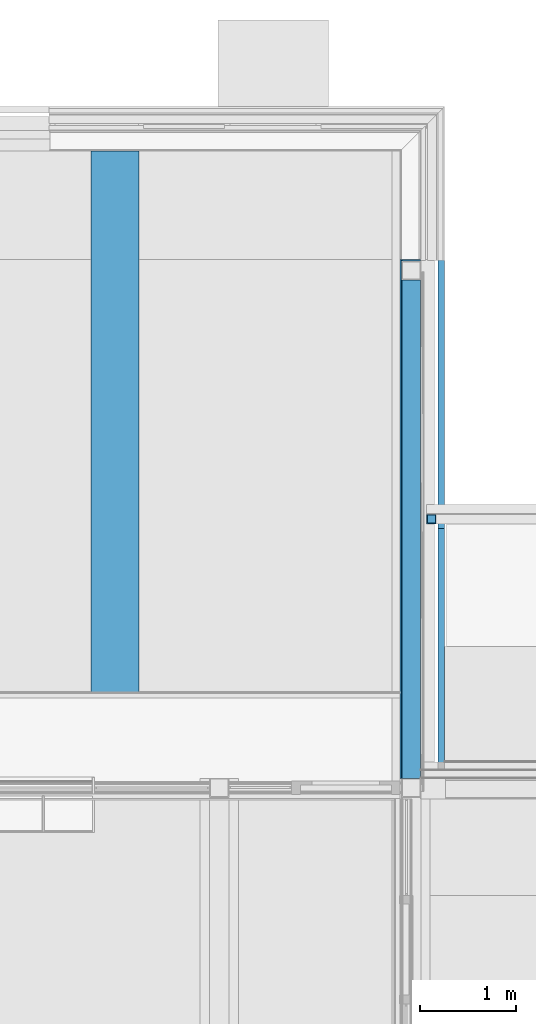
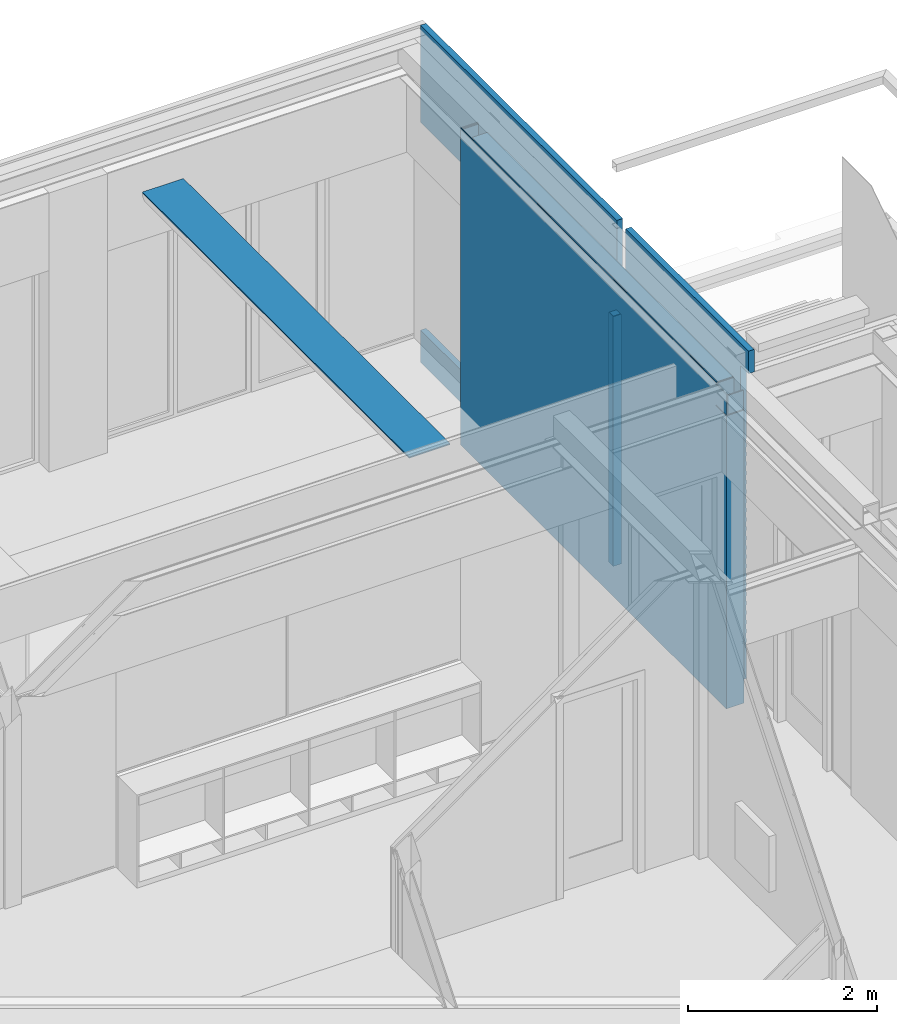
# One storey, part 97 of 165: 5 building element parts, 1 opening, 3 elements without a shape of their own.
"""IFC2X3 building model written with IfcOpenShell, lengths in millimetres."""

from ifc_helpers import new_model, entity, si_unit, converted_unit, derived_unit, money_unit, direction, frame, origin_with_axes, place, context, subcontext, project, spatial, faceted_brep, material, type_object, element, aggregate, save


model = new_model("IFC2X3")

# Units and contexts
model_context = context("Model", 3, precision=0.01, world=origin_with_axes(), true_north=direction((0.0, 1.0)))
body_context = subcontext(model_context, "Body", "Model", "MODEL_VIEW")
ifc_project = project(units=[si_unit("LENGTHUNIT", "METRE", prefix="MILLI"), si_unit("AREAUNIT", "SQUARE_METRE"), si_unit("VOLUMEUNIT", "CUBIC_METRE"), converted_unit("PLANEANGLEUNIT", "DEGREE", entity("IfcPlaneAngleMeasure", 0.0174532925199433), si_unit("PLANEANGLEUNIT", "RADIAN"), dimensions=[0, 0, 0, 0, 0, 0, 0]), money_unit("EUR"), converted_unit("TIMEUNIT", "Year", entity("IfcTimeMeasure", 31556926.0), si_unit("TIMEUNIT", "SECOND"), dimensions=[0, 0, 1, 0, 0, 0, 0]), si_unit("MASSUNIT", "GRAM", prefix="KILO"), si_unit("THERMODYNAMICTEMPERATUREUNIT", "DEGREE_CELSIUS"), si_unit("LUMINOUSINTENSITYUNIT", "LUMEN"), si_unit("ENERGYUNIT", "JOULE", prefix="MEGA"), derived_unit("THERMALCONDUCTANCEUNIT", [(si_unit("POWERUNIT", "WATT"), 1), (si_unit("LENGTHUNIT", "METRE"), -1), (si_unit("THERMODYNAMICTEMPERATUREUNIT", "KELVIN"), -1)]), derived_unit("SPECIFICHEATCAPACITYUNIT", [(si_unit("ENERGYUNIT", "JOULE"), 1), (si_unit("MASSUNIT", "GRAM", prefix="KILO"), -1), (si_unit("THERMODYNAMICTEMPERATUREUNIT", "KELVIN"), -1)]), derived_unit("MASSDENSITYUNIT", [(si_unit("MASSUNIT", "GRAM", prefix="KILO"), 1), (si_unit("VOLUMEUNIT", "CUBIC_METRE"), -1)])], contexts=[model_context])

# Site, building, storey
site_placement = place(None, origin_with_axes())
site = spatial("IfcSite", under=ifc_project, at=site_placement, Name="Site", CompositionType="ELEMENT")
building_placement = place(site_placement, origin_with_axes())
building = spatial("IfcBuilding", under=site, at=building_placement, Name="Naam gebouw", CompositionType="ELEMENT")
storey_placement = place(building_placement, origin_with_axes())
storey = spatial("IfcBuildingStorey", under=building, at=storey_placement, Name="Begane grond", CompositionType="ELEMENT", Elevation=0.0)

# Wall, opening, building element parts
wall_type = type_object("IfcWallType", Name="21 Buitenwand spouwmuur 464", PredefinedType="NOTDEFINED")
wall_placement = place(storey_placement, frame((26600.0, 29175.0, -485.0), z_axis=(0.0, 0.0, 1.0), x_axis=(0.0, -1.0, 0.0)))
wall = element("IfcWall", 1, at=wall_placement, inside=storey, type_object=wall_type, Name="21_Wand-x")
opening_placement = place(wall_placement, frame((671.999999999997, 0.0, 475.0), z_axis=(0.0, 0.0, 1.0), x_axis=(1.0, 0.0, 0.0)))
element("IfcOpeningElement", 2, at=opening_placement, cuts=wall, Name="_Merk AB1", context=body_context, shape_type="Brep", body=[
    faceted_brep([(672.0000000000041, 0.0, 2620.0), (-672.0000000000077, 0.0, 2620.0), (-672.0000000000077, 0.0, 3620.0), (672.0000000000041, 0.0, 3620.0), (672.0000000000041, 72.00000000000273, 2620.0), (-744.0000000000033, 72.00000000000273, 2620.0), (-922.0000000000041, 250.0000000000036, 2620.0), (-922.0000000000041, 250.0000000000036, -60.00000000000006), (-744.0000000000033, 72.00000000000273, -60.00000000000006), (-672.0000000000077, 0.0, -60.00000000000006), (-672.0000000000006, 0.0, -1060.0), (-457.0000000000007, -214.9999999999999, -1060.0), (-457.0000000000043, -214.9999999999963, 3620.0), (672.0000000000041, -214.9999999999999, 3620.0), (672.0000000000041, 0.0, -60.00000000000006), (672.0000000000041, -214.9999999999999, -1060.0), (672.0000000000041, 0.0, -1060.0), (672.0000000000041, 72.00000000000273, -60.00000000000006), (682.0000000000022, 72.00000000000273, 2620.0), (682.0000000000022, 251.0000000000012, 2620.0), (-922.0000000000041, 251.0000000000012, 2620.0), (-922.0000000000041, 251.0000000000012, -60.00000000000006), (682.0000000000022, 251.0000000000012, -60.00000000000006), (682.0000000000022, 72.00000000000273, -60.00000000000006)], [[[0, 1, 2, 3]], [[1, 0, 4, 5]], [[2, 1, 5, 6, 7, 8, 9, 10, 11, 12]], [[3, 2, 12, 13]], [[14, 0, 3, 13, 15, 16]], [[0, 14, 17, 4]], [[5, 4, 18, 19, 20, 6]], [[6, 20, 21, 7]], [[17, 8, 7, 21, 22, 23]], [[14, 9, 8, 17]], [[9, 14, 16, 10]], [[10, 16, 15, 11]], [[11, 15, 13, 12]], [[4, 17, 23, 18]], [[18, 23, 22, 19]], [[19, 22, 21, 20]]]),
])
ifc_material_1 = material(Name="Steen - Baksteen")
building_element_part_1_placement = place(wall_placement, origin_with_axes())
building_element_part_1 = element("IfcBuildingElementPart", 3, at=building_element_part_1_placement, material=ifc_material_1, Name="Steen - Baksteen", context=body_context, shape_type="Brep", body=[
    faceted_brep([(1353.999999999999, 249.9999762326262, 635.0000427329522), (6582.023758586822, 250.0, 635.0000427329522), (6582.023758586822, 250.0, 584.999944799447), (1353.999999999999, 249.9999762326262, 584.999944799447), (1353.999999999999, 245.0000227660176, 635.0000427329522), (6582.023758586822, 245.0000227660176, 635.0000427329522), (6582.023758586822, 245.0000227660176, 465.0000396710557), (6582.023758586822, 250.0, 465.0000396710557), (6582.023758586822, 250.0, 514.9999766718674), (6582.023758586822, 245.0000227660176, 514.9999766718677), (6582.023758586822, 245.0000227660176, 584.999944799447), (6582.023758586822, 245.0000227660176, 705.0000108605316), (6582.023758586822, 250.0, 705.0000108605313), (6582.023758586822, 250.0, 754.9999478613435), (6582.023758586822, 245.0000227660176, 754.9999478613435), (6582.023758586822, 245.0000227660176, 824.9999562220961), (6582.023758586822, 250.0, 824.9999562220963), (6582.023758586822, 250.0, 875.0000139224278), (6582.023758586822, 245.0000227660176, 875.0000139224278), (6582.023758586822, 245.0000227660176, 945.0000222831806), (6582.023758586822, 250.0, 945.0000222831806), (6582.023758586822, 250.0, 994.999999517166), (6582.023758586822, 245.0000227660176, 994.9999995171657), (6582.023758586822, 245.0000227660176, 1064.999927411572), (6582.023758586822, 250.0, 1064.999927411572), (6582.023758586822, 250.0, 1115.000025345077), (6582.023758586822, 245.0000227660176, 1115.000025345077), (6582.023758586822, 245.0000227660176, 1184.999993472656), (6582.023758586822, 250.0, 1184.999993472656), (6582.023758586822, 250.0, 1234.999970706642), (6582.023758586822, 245.0000227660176, 1234.999970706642), (6582.023758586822, 245.0000227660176, 1304.999979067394), (6582.023758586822, 250.0, 1304.999979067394), (6582.023758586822, 250.0, 1354.999996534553), (6582.023758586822, 245.0000227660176, 1354.999996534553), (6582.023758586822, 245.0000227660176, 1425.000004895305), (6582.023758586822, 250.0, 1425.000004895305), (6582.023758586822, 250.0, 1474.99998212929), (6582.023758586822, 245.0000227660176, 1474.999982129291), (6582.023758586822, 245.0000227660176, 1544.99995025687), (6582.023758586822, 250.0, 1544.99995025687), (6582.023758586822, 250.0, 1595.000007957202), (6582.023758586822, 245.0000227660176, 1595.000007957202), (6582.023758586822, 245.0000227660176, 1664.999976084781), (6582.023758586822, 250.0, 1664.999976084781), (6582.023758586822, 250.0, 1714.999993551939), (6582.023758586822, 245.0000227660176, 1714.999993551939), (6582.023758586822, 245.0000227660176, 1784.999961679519), (6582.023758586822, 250.0, 1784.999961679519), (6582.023758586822, 250.0, 1835.000019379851), (6582.023758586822, 245.0000227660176, 1835.000019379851), (6582.023758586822, 245.0000227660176, 1905.000027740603), (6582.023758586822, 250.0, 1905.000027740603), (6582.023758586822, 250.0, 1954.999964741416), (6582.023758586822, 245.0000227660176, 1954.999964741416), (6582.023758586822, 245.0000227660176, 2024.999973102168), (6582.023758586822, 250.0, 2024.999973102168), (6582.023758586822, 250.0, 2075.0000308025), (6582.023758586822, 245.0000227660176, 2075.0000308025), (6582.023758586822, 245.0000227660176, 2144.99999893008), (6582.023758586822, 250.0, 2144.99999893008), (6582.023758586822, 250.0, 2194.999976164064), (6582.023758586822, 245.0000227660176, 2194.999976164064), (6582.023758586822, 245.0000227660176, 2264.999944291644), (6582.023758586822, 250.0, 2264.999944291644), (6582.023758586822, 250.0, 2315.000001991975), (6582.023758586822, 245.0000227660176, 2315.000001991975), (6582.023758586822, 245.0000227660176, 2385.000010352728), (6582.023758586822, 250.0, 2385.000010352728), (6582.023758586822, 250.0, 2434.999987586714), (6582.023758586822, 245.0000227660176, 2434.999987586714), (6582.023758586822, 245.0000227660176, 2504.999995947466), (6582.023758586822, 250.0, 2504.999995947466), (6582.023758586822, 250.0, 2555.000013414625), (6582.023758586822, 245.0000227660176, 2555.000013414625), (6582.023758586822, 245.0000227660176, 2625.000021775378), (6582.023758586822, 250.0, 2625.000021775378), (6582.023758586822, 250.0, 2674.999999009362), (6582.023758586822, 245.0000227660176, 2674.999999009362), (6582.023758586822, 245.0000227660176, 2744.999967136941), (6582.023758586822, 250.0, 2744.999967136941), (6582.023758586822, 250.0, 2795.000024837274), (6582.023758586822, 245.0000227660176, 2795.000024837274), (6582.023758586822, 245.0000227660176, 2864.999992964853), (6582.023758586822, 250.0, 2864.999992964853), (6582.023758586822, 250.0, 2914.999970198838), (6582.023758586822, 245.0000227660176, 2914.999970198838), (6582.023758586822, 245.0000227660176, 2984.999978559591), (6582.023758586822, 250.0, 2984.999978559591), (6582.023758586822, 250.0, 3035.000036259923), (6582.023758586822, 245.0000227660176, 3035.000036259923), (6582.023758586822, 245.0000227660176, 3095.000008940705), (6582.023758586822, 250.0, 3095.000008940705), (6582.023758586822, 250.0, 4055.0), (6582.023758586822, 180.0000028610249, 4055.0), (6582.023758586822, 179.9999999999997, 0.0), (6582.023758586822, 250.0, 0.0), (6582.023758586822, 250.0, 395.0000313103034), (6582.023758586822, 245.0000227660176, 395.0000313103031), (1353.999999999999, 245.0000227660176, 584.999944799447), (1353.999999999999, 245.0000227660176, 465.0000396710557), (1353.999999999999, 245.0000227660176, 414.9999999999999), (1353.999999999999, 180.0000028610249, 414.9999999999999), (1353.999999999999, 180.0000028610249, 3095.0), (1353.999999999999, 245.0000227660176, 3095.000008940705), (1353.999999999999, 245.0000227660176, 3035.000036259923), (1353.999999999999, 249.9999762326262, 3035.000036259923), (1353.999999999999, 249.9999762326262, 2984.999978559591), (1353.999999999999, 245.0000227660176, 2984.999978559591), (1353.999999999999, 245.0000227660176, 2914.999970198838), (1353.999999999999, 249.9999762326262, 2914.999970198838), (1353.999999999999, 249.9999762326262, 2864.999992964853), (1353.999999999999, 245.0000227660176, 2864.999992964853), (1353.999999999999, 245.0000227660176, 2795.000024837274), (1353.999999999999, 249.9999762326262, 2795.000024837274), (1353.999999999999, 249.9999762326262, 2744.999967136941), (1353.999999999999, 245.0000227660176, 2744.999967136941), (1353.999999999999, 245.0000227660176, 2674.999999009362), (1353.999999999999, 249.9999762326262, 2674.999999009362), (1353.999999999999, 249.9999762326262, 2625.000021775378), (1353.999999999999, 245.0000227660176, 2625.000021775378), (1353.999999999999, 245.0000227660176, 2555.000013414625), (1353.999999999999, 249.9999762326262, 2555.000013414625), (1353.999999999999, 249.9999762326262, 2504.999995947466), (1353.999999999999, 245.0000227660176, 2504.999995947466), (1353.999999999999, 245.0000227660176, 2434.999987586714), (1353.999999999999, 249.9999762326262, 2434.999987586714), (1353.999999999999, 249.9999762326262, 2385.000010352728), (1353.999999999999, 245.0000227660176, 2385.000010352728), (1353.999999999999, 245.0000227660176, 2315.000001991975), (1353.999999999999, 249.9999762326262, 2315.000001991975), (1353.999999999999, 249.9999762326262, 2264.999944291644), (1353.999999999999, 245.0000227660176, 2264.999944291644), (1353.999999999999, 245.0000227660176, 2194.999976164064), (1353.999999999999, 249.9999762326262, 2194.999976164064), (1353.999999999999, 249.9999762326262, 2144.99999893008), (1353.999999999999, 245.0000227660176, 2144.99999893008), (1353.999999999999, 245.0000227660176, 2075.0000308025), (1353.999999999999, 249.9999762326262, 2075.0000308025), (1353.999999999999, 249.9999762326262, 2024.999973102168), (1353.999999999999, 245.0000227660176, 2024.999973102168), (1353.999999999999, 245.0000227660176, 1954.999964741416), (1353.999999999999, 249.9999762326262, 1954.999964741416), (1353.999999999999, 249.9999762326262, 1905.000027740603), (1353.999999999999, 245.0000227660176, 1905.000027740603), (1353.999999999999, 245.0000227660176, 1835.000019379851), (1353.999999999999, 249.9999762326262, 1835.000019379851), (1353.999999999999, 249.9999762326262, 1784.999961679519), (1353.999999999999, 245.0000227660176, 1784.999961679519), (1353.999999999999, 245.0000227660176, 1714.999993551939), (1353.999999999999, 249.9999762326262, 1714.999993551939), (1353.999999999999, 249.9999762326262, 1664.999976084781), (1353.999999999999, 245.0000227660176, 1664.999976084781), (1353.999999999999, 245.0000227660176, 1595.000007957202), (1353.999999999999, 249.9999762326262, 1595.000007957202), (1353.999999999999, 249.9999762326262, 1544.99995025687), (1353.999999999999, 245.0000227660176, 1544.99995025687), (1353.999999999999, 245.0000227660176, 1474.999982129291), (1353.999999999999, 249.9999762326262, 1474.999982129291), (1353.999999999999, 249.9999762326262, 1425.000004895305), (1353.999999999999, 245.0000227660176, 1425.000004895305), (1353.999999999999, 245.0000227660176, 1354.999996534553), (1353.999999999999, 249.9999762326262, 1354.999996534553), (1353.999999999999, 249.9999762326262, 1304.999979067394), (1353.999999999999, 245.0000227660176, 1304.999979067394), (1353.999999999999, 245.0000227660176, 1234.999970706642), (1353.999999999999, 249.9999762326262, 1234.999970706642), (1353.999999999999, 249.9999762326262, 1184.999993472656), (1353.999999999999, 245.0000227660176, 1184.999993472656), (1353.999999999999, 245.0000227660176, 1115.000025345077), (1353.999999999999, 249.9999762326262, 1115.000025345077), (1353.999999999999, 249.9999762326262, 1064.999927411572), (1353.999999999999, 245.0000227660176, 1064.999927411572), (1353.999999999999, 245.0000227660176, 994.9999995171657), (1353.999999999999, 249.9999762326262, 994.9999995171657), (1353.999999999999, 249.9999762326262, 945.0000222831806), (1353.999999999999, 245.0000227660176, 945.0000222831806), (1353.999999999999, 245.0000227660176, 875.0000139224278), (1353.999999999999, 249.9999762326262, 875.0000139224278), (1353.999999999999, 249.9999762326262, 824.9999562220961), (1353.999999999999, 245.0000227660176, 824.9999562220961), (1353.999999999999, 245.0000227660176, 754.9999478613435), (1353.999999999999, 249.9999762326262, 754.9999478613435), (1353.999999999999, 249.9999762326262, 705.0000108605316), (1353.999999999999, 245.0000227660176, 705.0000108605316), (1353.999999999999, 245.0000227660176, 514.9999766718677), (1353.999999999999, 249.9999762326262, 514.9999766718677), (1353.999999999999, 249.9999762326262, 465.0000396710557), (3900.023780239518, 245.0000227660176, 3095.000008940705), (3900.023780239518, 245.0000227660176, 3085.000008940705), (4000.02378023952, 245.0000227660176, 3085.000008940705), (4000.02378023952, 245.0000227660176, 3095.000008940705), (4150.023780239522, 245.0000227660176, 3095.000008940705), (4150.023780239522, 250.0, 3095.000008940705), (4150.023780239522, 250.0, 4345.0), (6750.023758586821, 250.0, 4345.0), (6750.023758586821, 250.0, 4055.0), (6750.023758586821, 180.0000028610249, 4055.0), (-180.0000000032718, 180.0000000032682, 414.9999999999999), (-179.9999999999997, 179.9999999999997, 0.0), (6750.023758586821, 180.0000028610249, 4345.0), (4150.023780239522, 180.0000018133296, 4345.0), (4150.023780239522, 180.0000028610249, 3095.000008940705), (4000.02378023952, 180.0000028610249, 3095.000008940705), (4000.02378023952, 180.0000028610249, 3085.000008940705), (3900.023780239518, 180.0000028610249, 3085.000008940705), (3900.023780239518, 180.0000028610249, 3095.000008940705), (3970.023780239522, 180.0000028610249, 3095.000008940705), (3970.023780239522, 180.0000017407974, 4345.0), (-179.9999999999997, 180.0000000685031, 4345.0), (-180.0000000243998, 180.0000000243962, 3095.0), (-179.9999999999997, 250.0, 0.0), (1344.000000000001, 249.9999762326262, 395.0000313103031), (-179.9999999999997, 249.9999762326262, 414.9999999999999), (1344.000000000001, 249.9999762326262, 414.9999999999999), (1344.000000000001, 245.0000227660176, 395.0000313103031), (1344.000000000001, 245.0000227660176, 414.9999999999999), (1353.999999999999, 249.9999762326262, 3095.000008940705), (-179.9999999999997, 249.9999762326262, 3095.0), (3900.023780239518, 250.0, 3095.000008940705), (3970.023780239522, 250.0, 3095.000008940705), (3970.023780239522, 250.0, 4345.0), (-179.9999999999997, 250.0, 4345.0)], [[[0, 1, 2, 3]], [[1, 0, 4, 5]], [[6, 7, 8, 9, 10, 2, 1, 5, 11, 12, 13, 14, 15, 16, 17, 18, 19, 20, 21, 22, 23, 24, 25, 26, 27, 28, 29, 30, 31, 32, 33, 34, 35, 36, 37, 38, 39, 40, 41, 42, 43, 44, 45, 46, 47, 48, 49, 50, 51, 52, 53, 54, 55, 56, 57, 58, 59, 60, 61, 62, 63, 64, 65, 66, 67, 68, 69, 70, 71, 72, 73, 74, 75, 76, 77, 78, 79, 80, 81, 82, 83, 84, 85, 86, 87, 88, 89, 90, 91, 92, 93, 94, 95, 96, 97, 98]], [[99, 3, 2, 10]], [[100, 101, 102, 103, 104, 105, 106, 107, 108, 109, 110, 111, 112, 113, 114, 115, 116, 117, 118, 119, 120, 121, 122, 123, 124, 125, 126, 127, 128, 129, 130, 131, 132, 133, 134, 135, 136, 137, 138, 139, 140, 141, 142, 143, 144, 145, 146, 147, 148, 149, 150, 151, 152, 153, 154, 155, 156, 157, 158, 159, 160, 161, 162, 163, 164, 165, 166, 167, 168, 169, 170, 171, 172, 173, 174, 175, 176, 177, 178, 179, 180, 181, 182, 183, 184, 4, 0, 3, 99, 185, 186, 187]], [[4, 184, 11, 5]], [[100, 187, 7, 6]], [[7, 187, 186, 8]], [[8, 186, 185, 9]], [[185, 99, 10, 9]], [[184, 183, 12, 11]], [[182, 13, 12, 183]], [[13, 182, 181, 14]], [[181, 180, 15, 14]], [[180, 179, 16, 15]], [[178, 17, 16, 179]], [[17, 178, 177, 18]], [[177, 176, 19, 18]], [[176, 175, 20, 19]], [[174, 21, 20, 175]], [[21, 174, 173, 22]], [[173, 172, 23, 22]], [[172, 171, 24, 23]], [[170, 25, 24, 171]], [[25, 170, 169, 26]], [[169, 168, 27, 26]], [[168, 167, 28, 27]], [[166, 29, 28, 167]], [[29, 166, 165, 30]], [[165, 164, 31, 30]], [[164, 163, 32, 31]], [[162, 33, 32, 163]], [[33, 162, 161, 34]], [[161, 160, 35, 34]], [[160, 159, 36, 35]], [[158, 37, 36, 159]], [[37, 158, 157, 38]], [[157, 156, 39, 38]], [[156, 155, 40, 39]], [[154, 41, 40, 155]], [[41, 154, 153, 42]], [[153, 152, 43, 42]], [[152, 151, 44, 43]], [[150, 45, 44, 151]], [[45, 150, 149, 46]], [[149, 148, 47, 46]], [[148, 147, 48, 47]], [[146, 49, 48, 147]], [[49, 146, 145, 50]], [[145, 144, 51, 50]], [[144, 143, 52, 51]], [[142, 53, 52, 143]], [[53, 142, 141, 54]], [[141, 140, 55, 54]], [[140, 139, 56, 55]], [[138, 57, 56, 139]], [[57, 138, 137, 58]], [[137, 136, 59, 58]], [[136, 135, 60, 59]], [[134, 61, 60, 135]], [[61, 134, 133, 62]], [[133, 132, 63, 62]], [[132, 131, 64, 63]], [[130, 65, 64, 131]], [[65, 130, 129, 66]], [[129, 128, 67, 66]], [[128, 127, 68, 67]], [[126, 69, 68, 127]], [[69, 126, 125, 70]], [[125, 124, 71, 70]], [[124, 123, 72, 71]], [[122, 73, 72, 123]], [[73, 122, 121, 74]], [[121, 120, 75, 74]], [[120, 119, 76, 75]], [[118, 77, 76, 119]], [[77, 118, 117, 78]], [[117, 116, 79, 78]], [[116, 115, 80, 79]], [[114, 81, 80, 115]], [[81, 114, 113, 82]], [[113, 112, 83, 82]], [[112, 111, 84, 83]], [[110, 85, 84, 111]], [[85, 110, 109, 86]], [[109, 108, 87, 86]], [[108, 107, 88, 87]], [[106, 89, 88, 107]], [[89, 106, 105, 90]], [[105, 104, 188, 189, 190, 191, 192, 91, 90]], [[192, 193, 92, 91]], [[92, 193, 194, 195, 196, 93]], [[197, 94, 93, 196]], [[103, 102, 198, 199, 95, 94, 197, 200, 201, 202, 203, 204, 205, 206, 207, 208, 209, 210]], [[211, 96, 95, 199]], [[212, 97, 96, 211, 213, 214]], [[97, 212, 215, 98]], [[216, 101, 100, 6, 98, 215]], [[101, 216, 214, 213, 198, 102]], [[217, 104, 103, 210, 218]], [[104, 217, 219, 188]], [[189, 188, 206, 205]], [[190, 189, 205, 204]], [[191, 190, 204, 203]], [[192, 191, 203, 202]], [[193, 192, 202, 201, 194]], [[195, 194, 201, 200]], [[200, 197, 196, 195]], [[199, 198, 213, 211]], [[188, 219, 220, 207, 206]], [[220, 221, 208, 207]], [[209, 208, 221, 222]], [[222, 218, 210, 209]], [[212, 214, 216, 215]], [[219, 217, 218, 222, 221, 220]]]),
])
ifc_material_2 = material(Name="Steen - Kalkzandsteen C")
building_element_part_2_placement = place(wall_placement, origin_with_axes())
building_element_part_2 = element("IfcBuildingElementPart", 4, at=building_element_part_2_placement, material=ifc_material_2, Name="Steen - Kalkzandsteen C", context=body_context, shape_type="Brep", body=[
    faceted_brep([(1344.000000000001, -5.000000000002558, 4080.0), (1344.000000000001, -5.000000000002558, 4084.999999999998), (1360.0, -5.000000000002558, 4084.999999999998), (1360.0, -5.000000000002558, 4080.0), (1344.000000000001, -195.0000000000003, 4084.999999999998), (1344.000000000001, -195.0000000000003, 4080.0), (1360.0, -195.0000000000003, 4084.999999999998), (1360.0, -195.0000000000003, 4080.0)], [[[0, 1, 2, 3]], [[4, 1, 0, 5]], [[1, 4, 6, 2]], [[2, 6, 7, 3]], [[5, 0, 3, 7]], [[4, 5, 7, 6]]]),
    faceted_brep([(6950.000152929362, -5.000000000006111, 4035.0), (6950.000152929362, -5.000000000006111, 3790.0), (6950.000152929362, -195.0000000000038, 3790.0), (6950.000152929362, -195.0000000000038, 4035.0), (6964.023758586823, -5.000000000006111, 4035.0), (6964.023758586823, -5.000000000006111, 3790.0), (6964.023758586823, -195.0000000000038, 3790.0), (6964.023758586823, -195.0000000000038, 4035.0)], [[[0, 1, 2, 3]], [[0, 4, 5, 1]], [[1, 5, 6, 2]], [[2, 6, 7, 3]], [[3, 7, 4, 0]], [[7, 6, 5, 4]]]),
    faceted_brep([(1344.000000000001, -201.0000000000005, 4080.0), (1344.000000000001, -201.0000000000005, 4085.0), (6750.023758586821, -201.0000000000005, 4085.0), (6750.023758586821, -201.0000000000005, 4080.0), (1344.000000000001, -214.0000000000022, 4085.0), (1344.000000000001, -214.0000000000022, 4080.0), (6750.023758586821, -213.9999999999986, 4085.0), (6750.023758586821, -213.9999999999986, 4080.0)], [[[0, 1, 2, 3]], [[4, 1, 0, 5]], [[1, 4, 6, 2]], [[7, 3, 2, 6]], [[5, 0, 3, 7]], [[4, 5, 7, 6]]]),
    faceted_brep([(6750.00015292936, -4.999999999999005, 4080.0), (6750.00015292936, -195.0000000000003, 4080.0), (1560.000000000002, -195.0000000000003, 4080.0), (1560.000000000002, -5.000000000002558, 4080.0), (6750.00015292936, -5.000000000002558, 4084.999999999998), (6750.00015292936, -195.0000000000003, 4084.999999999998), (1560.000000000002, -195.0000000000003, 4084.999999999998), (1560.000000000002, -5.000000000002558, 4084.999999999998)], [[[0, 1, 2, 3]], [[4, 5, 1, 0]], [[2, 1, 5, 6]], [[3, 2, 6, 7]], [[7, 4, 0, 3]], [[7, 6, 5, 4]]]),
    faceted_brep([(1344.000000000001, 0.0, 414.9999999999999), (1344.000000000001, 0.0, 3095.0), (1344.000000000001, 0.0, 4068.0), (1360.0, 0.0, 4068.0), (1360.0, 1.953964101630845e-06, 5.000000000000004), (1560.000000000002, 1.953964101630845e-06, 5.000000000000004), (1560.000000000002, 0.0, 4068.0), (6750.00015292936, 0.0, 4068.0), (6750.00015292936, 0.0, 4055.0), (6750.00015292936, 0.0, 3778.0), (6750.00015292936, 0.0, 5.000000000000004), (6950.000152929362, 0.0, 5.000000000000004), (6950.000152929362, -2.283350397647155e-06, 3778.0), (6964.023758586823, -2.443453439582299e-06, 3778.0), (6964.023758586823, 0.0, 0.0), (1344.000000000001, 0.0, 0.0), (1344.000000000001, -214.0000000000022, 4068.0), (1344.000000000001, -213.9999999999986, 0.0), (6750.023758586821, -213.9999999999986, 4068.0), (6750.023758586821, -200.0000000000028, 4068.0), (6750.00015292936, -200.0000000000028, 4068.0), (1560.000000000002, -199.9999980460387, 4068.0), (1360.0, -199.9999980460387, 4068.0), (1360.0, -199.9999980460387, 5.000000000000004), (1560.000000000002, -199.9999980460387, 5.000000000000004), (6750.00015292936, -201.0000000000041, 3790.0), (6750.00015292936, -213.9999999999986, 3790.0), (6750.00015292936, -213.9999999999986, 3778.0), (6750.00015292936, -200.0000000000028, 3778.0), (6750.00015292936, -200.0000000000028, 5.000000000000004), (6750.00015292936, -200.0000000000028, 4055.0), (6750.00015292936, -201.0000000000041, 4055.0), (6950.000152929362, -200.0000000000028, 5.000000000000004), (6950.000152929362, -200.0000000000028, 3778.0), (6964.023758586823, -213.9999999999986, 3778.0), (6964.023758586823, -214.0000000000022, 0.0), (6964.023758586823, -213.9999999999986, 3790.0), (6964.023758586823, -213.9999999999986, 4055.0), (6750.023758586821, -213.9999999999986, 4055.0), (6750.023758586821, -201.0000000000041, 4055.0), (6750.023758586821, -200.0000000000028, 4055.0), (6964.023758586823, -201.0000000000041, 3790.0), (6964.023758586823, -201.0000000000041, 4055.0)], [[[0, 1, 2, 3, 4, 5, 6, 7, 8, 9, 10, 11, 12, 13, 14, 15]], [[16, 2, 1, 0, 15, 17]], [[2, 16, 18, 19, 20, 7, 6, 21, 22, 3]], [[3, 22, 23, 4]], [[4, 23, 24, 5]], [[5, 24, 21, 6]], [[25, 26, 27, 28, 29, 10, 9, 8, 7, 20, 30, 31]], [[10, 29, 32, 11]], [[11, 32, 33, 12]], [[28, 27, 34, 13, 12, 33]], [[13, 34, 35, 14]], [[17, 15, 14, 35]], [[16, 17, 35, 34, 27, 26, 36, 37, 38, 18]], [[19, 18, 38, 39, 40]], [[19, 40, 30, 20]], [[21, 24, 23, 22]], [[25, 41, 36, 26]], [[28, 33, 32, 29]], [[40, 39, 31, 30]], [[39, 42, 41, 25, 31]], [[42, 37, 36, 41]], [[39, 38, 37, 42]]]),
])
aggregate(wall, [building_element_part_1, building_element_part_2])

# Column, building element parts
column_type = type_object("IfcColumnType", Name="100X100X8  100 x 100", PredefinedType="COLUMN")
column_placement = place(storey_placement, frame((26710.00001107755, 25124.97621976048, -480.0), z_axis=(0.0, 0.0, 1.0), x_axis=(1.0, 0.0, 0.0)))
column = element("IfcColumn", 5, at=column_placement, inside=storey, type_object=column_type, Name="28_Kolom-x", ObjectType="COLUMN")
ifc_material_3 = material(Name="Lucht kolommen")
building_element_part_3_placement = place(column_placement, origin_with_axes())
building_element_part_3 = element("IfcBuildingElementPart", 6, at=building_element_part_3_placement, material=ifc_material_3, Name="Lucht kolommen", context=body_context, shape_type="Brep", body=[
    faceted_brep([(42.00000000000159, -42.00000000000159, 0.0), (42.00000000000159, 42.00000000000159, 0.0), (42.00000000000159, 42.00000000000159, 3220.000013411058), (42.00000000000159, -42.00000000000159, 3220.000013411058), (-42.00000000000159, -42.00000000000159, 0.0), (-42.00000000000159, 42.00000000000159, 0.0), (-42.00000000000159, 42.00000000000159, 3220.000013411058), (-42.00000000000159, -42.00000000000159, 3220.000013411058)], [[[0, 1, 2, 3]], [[0, 4, 5, 1]], [[1, 5, 6, 2]], [[3, 2, 6, 7]], [[4, 0, 3, 7]], [[5, 4, 7, 6]]]),
])
ifc_material_4 = material(Name="Metaal - Staal C")
building_element_part_4_placement = place(column_placement, origin_with_axes())
building_element_part_4 = element("IfcBuildingElementPart", 7, at=building_element_part_4_placement, material=ifc_material_4, Name="Metaal - Staal C", context=body_context, shape_type="Brep", body=[
    faceted_brep([(-50.00000000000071, 50.00000000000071, 0.0), (-50.00000000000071, -50.00000000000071, 0.0), (-50.00000000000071, -50.00000000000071, 3220.000013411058), (-50.00000000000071, 50.00000000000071, 3220.000013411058), (50.00000000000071, 50.00000000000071, 0.0), (50.00000000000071, -50.00000000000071, 0.0), (-42.00000000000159, -42.00000000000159, 0.0), (42.00000000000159, -42.00000000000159, 0.0), (42.00000000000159, 42.00000000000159, 0.0), (-42.00000000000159, 42.00000000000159, 0.0), (50.00000000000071, -50.00000000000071, 3220.000013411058), (50.00000000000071, 50.00000000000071, 3220.000013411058), (-42.00000000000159, -42.00000000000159, 3220.000013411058), (-42.00000000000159, 42.00000000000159, 3220.000013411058), (42.00000000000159, 42.00000000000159, 3220.000013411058), (42.00000000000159, -42.00000000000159, 3220.000013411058)], [[[0, 1, 2, 3]], [[0, 4, 5, 1], [6, 7, 8, 9]], [[1, 5, 10, 2]], [[3, 2, 10, 11], [12, 13, 14, 15]], [[4, 0, 3, 11]], [[5, 4, 11, 10]], [[7, 6, 12, 15]], [[8, 7, 15, 14]], [[9, 8, 14, 13]], [[6, 9, 13, 12]]]),
])
aggregate(column, [building_element_part_3, building_element_part_4])

# Beam, building element part
beam_type = type_object("IfcBeamType", Name="Luchtzakken 500mm 500 x 265", PredefinedType="BEAM")
beam_placement = place(storey_placement, frame((23412.49942456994, 28961.0, 3200.0), z_axis=(0.0, 0.0, 1.0), x_axis=(-1.0, 0.0, 0.0)))
beam = element("IfcBeam", 8, at=beam_placement, inside=storey, type_object=beam_type, Name="_Regenwaterafvoer-x", ObjectType="BEAM")
ifc_material_5 = material(Name="ALG - ALGEMEEN")
building_element_part_5_placement = place(beam_placement, origin_with_axes())
building_element_part_5 = element("IfcBuildingElementPart", 9, at=building_element_part_5_placement, material=ifc_material_5, Name="ALG - ALGEMEEN", context=body_context, shape_type="Brep", body=[
    faceted_brep([(250.0, 5636.000152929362, 0.0), (250.0, 5636.000152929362, 15.00000000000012), (250.0, 0.0, 15.00000000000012), (250.0, 0.0, 0.0), (239.9999999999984, 5636.000152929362, 0.0), (-240.000000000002, 5636.000152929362, 0.0), (-250.0, 5636.000152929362, 0.0), (-250.0, 5636.000152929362, 15.00000000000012), (-250.0, 0.0, 15.00000000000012), (-250.0, 0.0, 0.0), (-239.9999999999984, 0.0, 0.0), (239.9999999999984, 0.0, 0.0)], [[[0, 1, 2, 3]], [[0, 4, 5, 6, 7, 1]], [[1, 7, 8, 2]], [[3, 2, 8, 9, 10, 11]], [[4, 0, 3, 11]], [[5, 4, 11, 10]], [[6, 5, 10, 9]], [[7, 6, 9, 8]]]),
])
aggregate(beam, [building_element_part_5])

save(model, "model.ifc")
